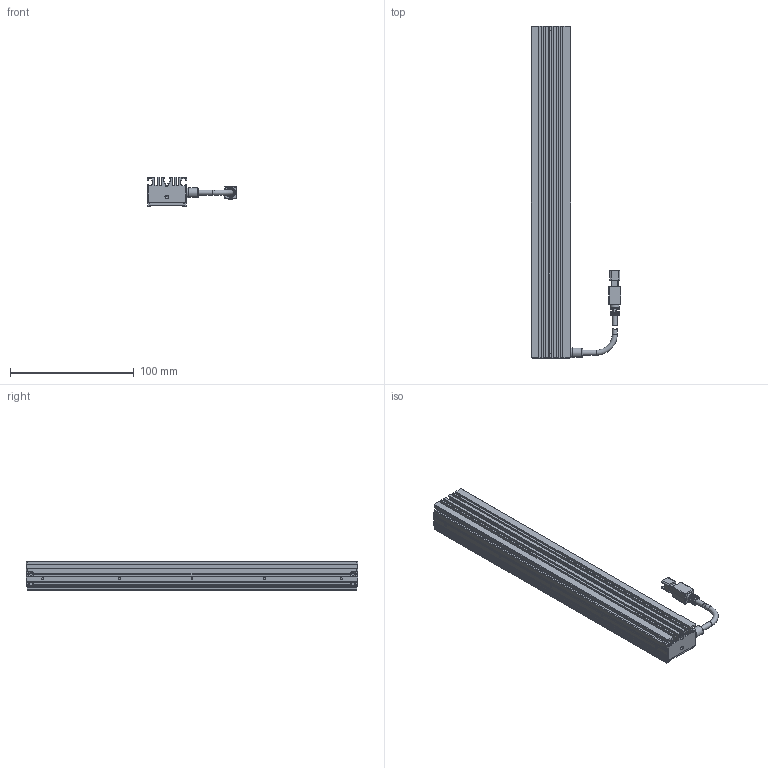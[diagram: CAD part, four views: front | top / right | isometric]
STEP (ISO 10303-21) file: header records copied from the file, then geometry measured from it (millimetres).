
FILE_DESCRIPTION (( 'STEP AP203' ), '1' );
FILE_NAME ('OPT-ILI26832-IR-V1.0U尨砩芞.STEP', '2025-01-18T08:13:59', ( '' ), ( '' ), 'SwSTEP 2.0', 'SolidWorks 2016', '' );
FILE_SCHEMA (( 'CONFIG_CONTROL_DESIGN' ));
Length unit declared in the file: millimetre
Products named in the file (1): OPT-ILI26832-IR-V1.0U尨砩芞
Bounding box: 72.6 x 268 x 24 mm (x, y, z)
Volume: 162546.4 mm3; surface area: 68525.8 mm2
Topology: 5 solids, 15 shells, 643 faces, 1658 edges, 1066 vertices
Faces by surface type: plane 441, cylinder 142, cone 30, bspline 20, torus 10
Full cylindrical faces by diameter (mm): 1.1 x2, 1.4 x4, 1.6 x17, 1.8 x2, 2 x7, 2.4 x7, 2.5 x2, 2.6 x2, 3 x2, 3.5 x1, 4.1 x3, 7.5 x2, 8 x1
Entity records: 19501 total; most frequent: CARTESIAN_POINT 4406, ORIENTED_EDGE 3082, DIRECTION 2992, EDGE_CURVE 1541, VECTOR 1070, LINE 1070, VERTEX_POINT 1033, AXIS2_PLACEMENT_3D 961
